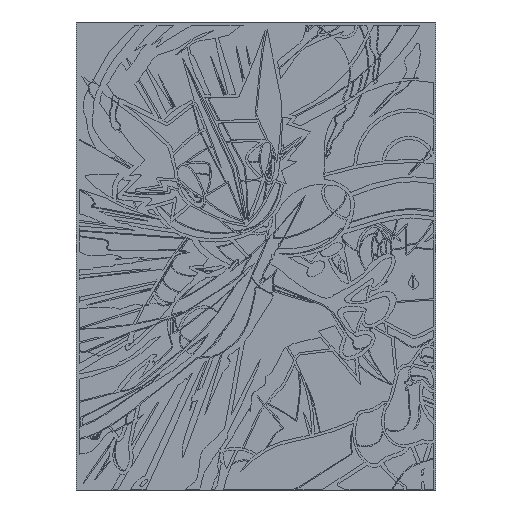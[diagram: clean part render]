
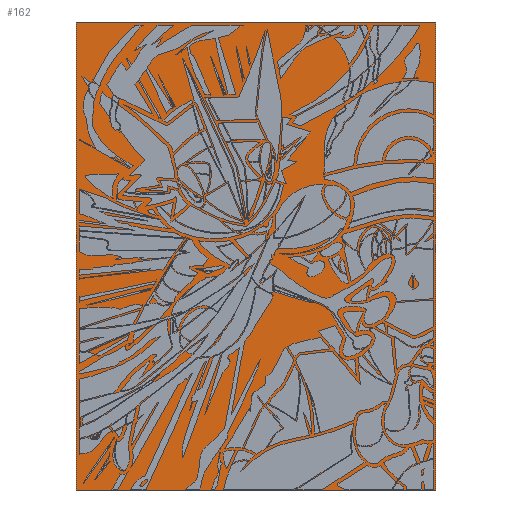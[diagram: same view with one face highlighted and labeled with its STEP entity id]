
A CAD part, front view. The second image highlights one B-rep face of the part: STEP entity #162.
In plain terms, the highlighted planar face has unit normal (0, -1, 0).
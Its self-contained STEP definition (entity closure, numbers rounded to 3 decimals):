
#42=CARTESIAN_POINT('',(4.357,370.577,488.55));
#43=VERTEX_POINT('',#42);
#50=CARTESIAN_POINT('',(4.357,370.577,14.55));
#51=VERTEX_POINT('',#50);
#52=CARTESIAN_POINT('',(4.357,370.577,14.55));
#53=DIRECTION('',(-0.,-0.,1.));
#54=VECTOR('',#53,474.);
#55=LINE('',#52,#54);
#56=EDGE_CURVE('',#51,#43,#55,.T.);
#81=CARTESIAN_POINT('',(-359.643,370.577,14.55));
#82=VERTEX_POINT('',#81);
#83=CARTESIAN_POINT('',(-359.643,370.577,14.55));
#84=DIRECTION('',(1.,-0.,-0.));
#85=VECTOR('',#84,364.);
#86=LINE('',#83,#85);
#87=EDGE_CURVE('',#82,#51,#86,.T.);
#112=CARTESIAN_POINT('',(-359.643,370.577,488.55));
#113=VERTEX_POINT('',#112);
#114=CARTESIAN_POINT('',(-359.643,370.577,488.55));
#115=DIRECTION('',(0.,0.,-1.));
#116=VECTOR('',#115,474.);
#117=LINE('',#114,#116);
#118=EDGE_CURVE('',#113,#82,#117,.T.);
#141=CARTESIAN_POINT('',(4.357,370.577,488.55));
#142=DIRECTION('',(-1.,0.,0.));
#143=VECTOR('',#142,364.);
#144=LINE('',#141,#143);
#145=EDGE_CURVE('',#43,#113,#144,.T.);
#151=CARTESIAN_POINT('',(-177.484,370.577,256.35));
#152=DIRECTION('',(-0.,-1.,-0.));
#153=DIRECTION('',(0.,0.,-1.));
#154=AXIS2_PLACEMENT_3D('',#151,#152,#153);
#155=PLANE('',#154);
#156=ORIENTED_EDGE('',*,*,#145,.T.);
#157=ORIENTED_EDGE('',*,*,#118,.T.);
#158=ORIENTED_EDGE('',*,*,#87,.T.);
#159=ORIENTED_EDGE('',*,*,#56,.T.);
#160=EDGE_LOOP('',(#156,#157,#158,#159));
#161=FACE_BOUND('',#160,.T.);
#162=ADVANCED_FACE('',(#161),#155,.T.);
